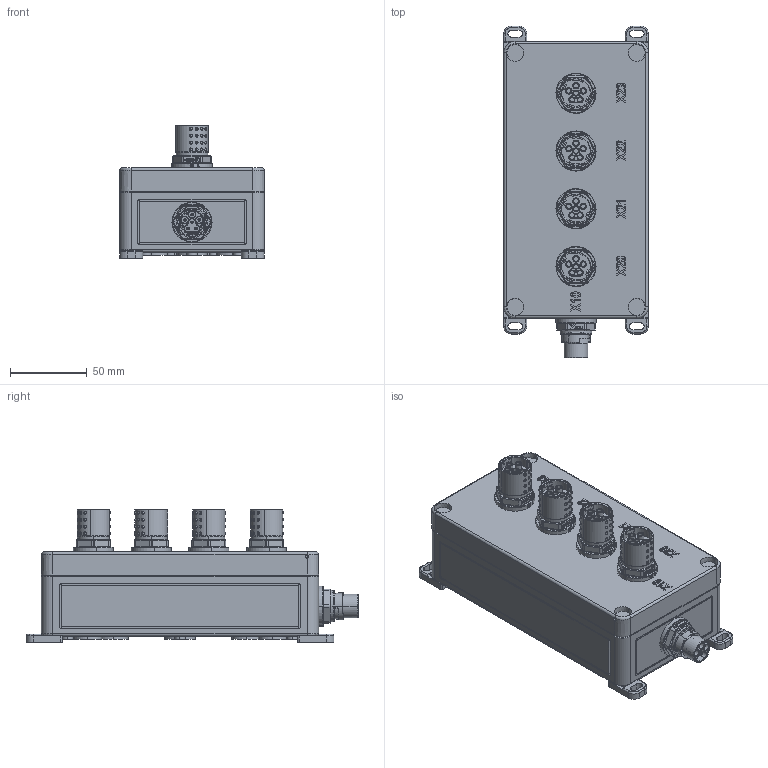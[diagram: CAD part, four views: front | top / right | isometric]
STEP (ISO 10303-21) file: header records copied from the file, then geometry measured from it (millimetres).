
FILE_DESCRIPTION (( 'STEP AP214' ), '1' );
FILE_NAME ('1145370-00000.STEP', '2020-08-04T12:27:31', ( '' ), ( '' ), 'SwSTEP 2.0', 'SolidWorks 2019', '' );
FILE_SCHEMA (( 'AUTOMOTIVE_DESIGN' ));
Length unit declared in the file: millimetre
Products named in the file (1): 1145370-00000
Bounding box: 94 x 215.6 x 86.12 mm (x, y, z)
Volume: 969934.2 mm3; surface area: 88959 mm2
Topology: 1 solids, 16 shells, 3798 faces, 9671 edges, 6276 vertices
Faces by surface type: plane 1718, bspline 959, cylinder 938, torus 153, cone 28, sphere 2
Entity records: 190247 total; most frequent: CARTESIAN_POINT 97855, ORIENTED_EDGE 19286, DIRECTION 14783, EDGE_CURVE 9643, VERTEX_POINT 6276, AXIS2_PLACEMENT_3D 5021, LINE 4741, VECTOR 4741
